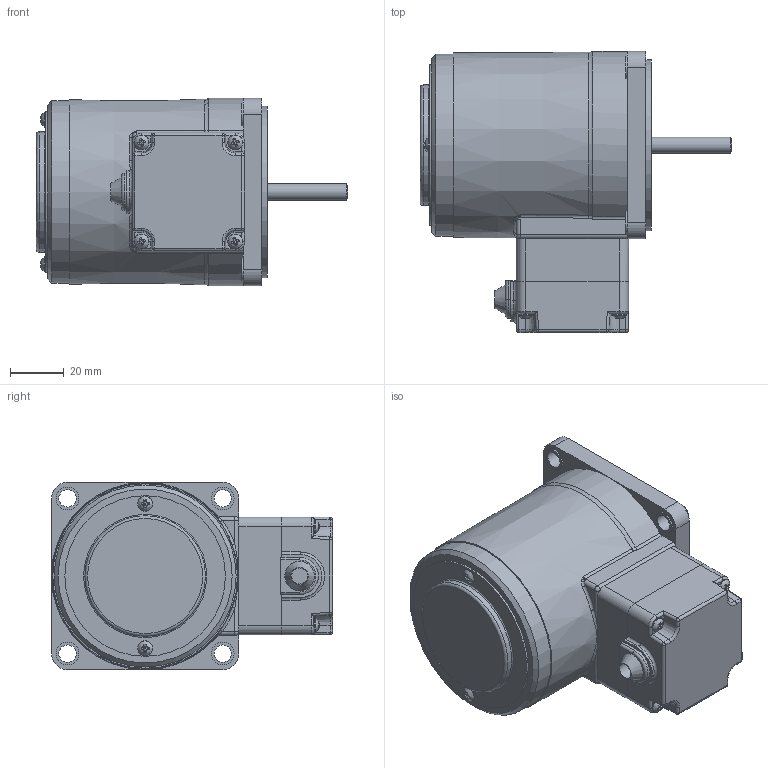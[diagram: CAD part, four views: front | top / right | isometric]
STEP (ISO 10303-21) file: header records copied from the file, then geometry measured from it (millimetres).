
FILE_DESCRIPTION(/* description */ (''),/* implementation_level */ '2;1');
FILE_NAME(/* name */ 'E:\도면작업\2016\0704) 미주향 SG 도면\3D MOTOR\TERMINAL BOX TYPE\REVERSIBLE TERMINAL BOX\SG7R15S_-T.stp',/* time_stamp */ '2017-01-24T08:33:33+09:00',/* author */ ('jy-jung'),/* organization */ (''),/* preprocessor_version */ 'ST-DEVELOPER v15.6',/* originating_system */ 'Autodesk Inventor 2015',/* authorisation */ '');
FILE_SCHEMA (('AUTOMOTIVE_DESIGN { 1 0 10303 214 3 1 1 }'));
Length unit declared in the file: millimetre
Products named in the file (1): 부품1
Bounding box: 116.3 x 105 x 70 mm (x, y, z)
Volume: 342983 mm3; surface area: 54636.8 mm2
Topology: 1 solids, 10 shells, 635 faces, 1621 edges, 1006 vertices
Faces by surface type: plane 319, cylinder 211, torus 45, bspline 24, cone 18, sphere 18
Full cylindrical faces by diameter (mm): 2.5 x2, 3 x6, 3.5 x10, 5.6 x6, 6 x2, 6.5 x4, 8 x1, 8.5 x4, 28 x1, 43 x1, 45 x1, 60 x1, 64 x1, 68 x1
Entity records: 20092 total; most frequent: CARTESIAN_POINT 4425, DIRECTION 3154, ORIENTED_EDGE 3040, EDGE_CURVE 1520, AXIS2_PLACEMENT_3D 1146, VERTEX_POINT 996, LINE 862, VECTOR 862
